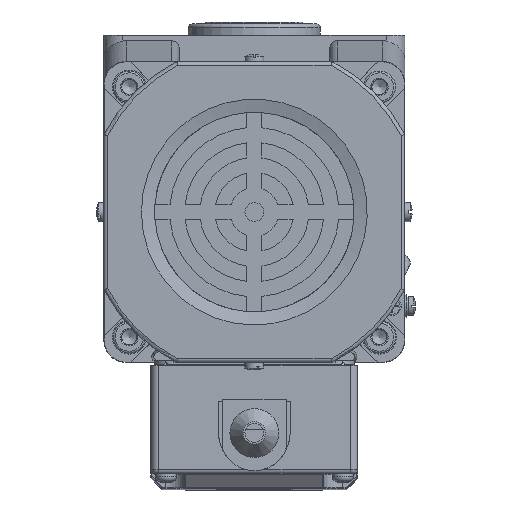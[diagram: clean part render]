
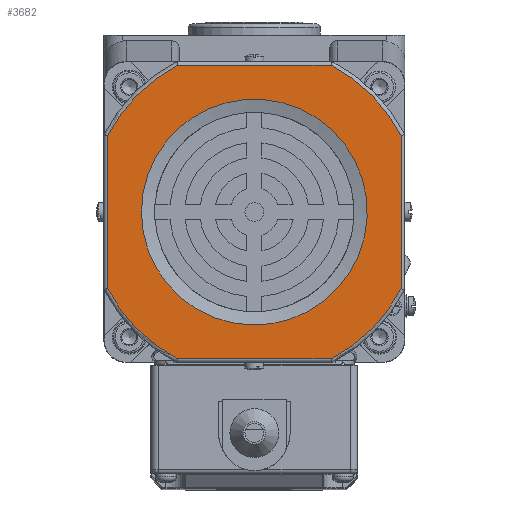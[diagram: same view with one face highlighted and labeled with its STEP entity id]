
A CAD part, left-side view. The second image highlights one B-rep face of the part: STEP entity #3682.
In plain terms, the highlighted planar face has unit normal (-1, 0, 0).
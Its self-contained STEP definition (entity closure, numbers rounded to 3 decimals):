
#3682=ADVANCED_FACE('',(#9980,#9981),#5461,.F.);
#5461=PLANE('',#29764);
#6252=LINE('',#40686,#8116);
#6253=LINE('',#40691,#8117);
#6254=LINE('',#40695,#8118);
#6255=LINE('',#40699,#8119);
#8116=VECTOR('',#32794,1.);
#8117=VECTOR('',#32797,1.);
#8118=VECTOR('',#32800,1.);
#8119=VECTOR('',#32803,1.);
#9980=FACE_BOUND('',#10658,.T.);
#9981=FACE_BOUND('',#10659,.T.);
#10658=EDGE_LOOP('',(#12810));
#10659=EDGE_LOOP('',(#12811,#12812,#12813,#12814,#12815,#12816,#12817,#12818));
#12810=ORIENTED_EDGE('',*,*,#24062,.T.);
#12811=ORIENTED_EDGE('',*,*,#24063,.T.);
#12812=ORIENTED_EDGE('',*,*,#24064,.T.);
#12813=ORIENTED_EDGE('',*,*,#24065,.T.);
#12814=ORIENTED_EDGE('',*,*,#24066,.T.);
#12815=ORIENTED_EDGE('',*,*,#24067,.T.);
#12816=ORIENTED_EDGE('',*,*,#24068,.T.);
#12817=ORIENTED_EDGE('',*,*,#24069,.T.);
#12818=ORIENTED_EDGE('',*,*,#24070,.T.);
#21294=VERTEX_POINT('',#40685);
#21295=VERTEX_POINT('',#40687);
#21296=VERTEX_POINT('',#40688);
#21297=VERTEX_POINT('',#40690);
#21298=VERTEX_POINT('',#40692);
#21299=VERTEX_POINT('',#40694);
#21300=VERTEX_POINT('',#40696);
#21301=VERTEX_POINT('',#40698);
#21302=VERTEX_POINT('',#40700);
#24062=EDGE_CURVE('',#21294,#21294,#28345,.T.);
#24063=EDGE_CURVE('',#21295,#21296,#6252,.T.);
#24064=EDGE_CURVE('',#21296,#21297,#28346,.T.);
#24065=EDGE_CURVE('',#21297,#21298,#6253,.T.);
#24066=EDGE_CURVE('',#21298,#21299,#28347,.T.);
#24067=EDGE_CURVE('',#21299,#21300,#6254,.T.);
#24068=EDGE_CURVE('',#21300,#21301,#28348,.T.);
#24069=EDGE_CURVE('',#21301,#21302,#6255,.T.);
#24070=EDGE_CURVE('',#21302,#21295,#28349,.T.);
#28345=CIRCLE('',#29759,30.);
#28346=CIRCLE('',#29760,44.);
#28347=CIRCLE('',#29761,44.);
#28348=CIRCLE('',#29762,44.);
#28349=CIRCLE('',#29763,44.);
#29759=AXIS2_PLACEMENT_3D('',#40684,#32792,#32793);
#29760=AXIS2_PLACEMENT_3D('',#40689,#32795,#32796);
#29761=AXIS2_PLACEMENT_3D('',#40693,#32798,#32799);
#29762=AXIS2_PLACEMENT_3D('',#40697,#32801,#32802);
#29763=AXIS2_PLACEMENT_3D('',#40701,#32804,#32805);
#29764=AXIS2_PLACEMENT_3D('',#40702,#32806,#32807);
#32792=DIRECTION('',(1.,0.,0.));
#32793=DIRECTION('',(0.,1.,0.));
#32794=DIRECTION('',(0.,1.,0.));
#32795=DIRECTION('',(-1.,0.,0.));
#32796=DIRECTION('',(0.,0.,-1.));
#32797=DIRECTION('',(0.,0.,-1.));
#32798=DIRECTION('',(-1.,0.,0.));
#32799=DIRECTION('',(0.,0.,-1.));
#32800=DIRECTION('',(0.,-1.,0.));
#32801=DIRECTION('',(-1.,0.,0.));
#32802=DIRECTION('',(0.,0.,-1.));
#32803=DIRECTION('',(0.,0.,1.));
#32804=DIRECTION('',(-1.,0.,0.));
#32805=DIRECTION('',(0.,0.,-1.));
#32806=DIRECTION('',(1.,0.,0.));
#32807=DIRECTION('',(0.,0.,-1.));
#40684=CARTESIAN_POINT('',(-102.,40.,40.));
#40685=CARTESIAN_POINT('',(-102.,70.,40.));
#40686=CARTESIAN_POINT('',(-102.,60.616,79.));
#40687=CARTESIAN_POINT('',(-102.,19.628,79.));
#40688=CARTESIAN_POINT('',(-102.,60.372,79.));
#40689=CARTESIAN_POINT('',(-102.,40.,40.));
#40690=CARTESIAN_POINT('',(-102.,79.,60.372));
#40691=CARTESIAN_POINT('',(-102.,79.,19.384));
#40692=CARTESIAN_POINT('',(-102.,79.,19.628));
#40693=CARTESIAN_POINT('',(-102.,40.,40.));
#40694=CARTESIAN_POINT('',(-102.,60.372,1.));
#40695=CARTESIAN_POINT('',(-102.,19.384,1.));
#40696=CARTESIAN_POINT('',(-102.,19.628,1.));
#40697=CARTESIAN_POINT('',(-102.,40.,40.));
#40698=CARTESIAN_POINT('',(-102.,1.,19.628));
#40699=CARTESIAN_POINT('',(-102.,1.,60.616));
#40700=CARTESIAN_POINT('',(-102.,1.,60.372));
#40701=CARTESIAN_POINT('',(-102.,40.,40.));
#40702=CARTESIAN_POINT('',(-102.,40.,40.));
